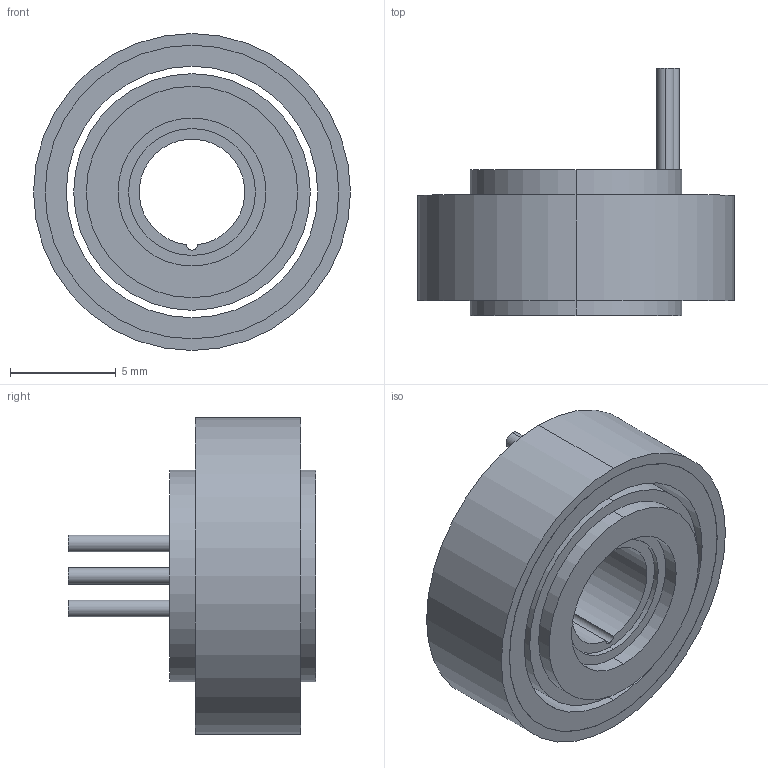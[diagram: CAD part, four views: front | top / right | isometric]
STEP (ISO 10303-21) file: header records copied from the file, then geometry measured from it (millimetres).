
FILE_DESCRIPTION (( 'STEP AP214' ), '1' );
FILE_NAME ('U1506µç»ú.STEP', '2026-03-25T07:22:31', ( 'Windows User' ), ( 'P R C' ), 'SwSTEP 2.0', 'SolidWorks 2023', '' );
FILE_SCHEMA (( 'AUTOMOTIVE_DESIGN' ));
Length unit declared in the file: millimetre
Products named in the file (1): U1506电机
Bounding box: 15 x 11.7 x 15 mm (x, y, z)
Volume: 799.7 mm3; surface area: 1106.3 mm2
Topology: 2 solids, 2 shells, 46 faces, 93 edges, 62 vertices
Faces by surface type: cylinder 31, plane 15
Entity records: 1279 total; most frequent: DIRECTION 249, CARTESIAN_POINT 202, ORIENTED_EDGE 186, AXIS2_PLACEMENT_3D 109, EDGE_CURVE 93, VERTEX_POINT 62, CIRCLE 62, EDGE_LOOP 61
